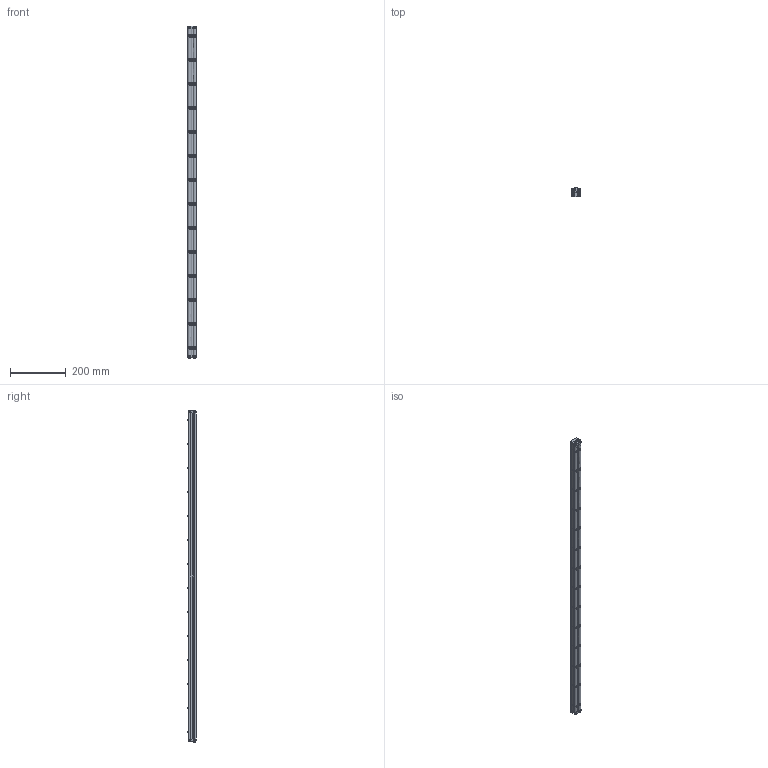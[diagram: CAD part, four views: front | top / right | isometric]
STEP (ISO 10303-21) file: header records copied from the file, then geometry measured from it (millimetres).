
FILE_DESCRIPTION((''),'2;1');
FILE_NAME('206523-46_ASM','2023-02-27T',('jenni.wallner'),(''),'PRO/ENGINEER BY PARAMETRIC TECHNOLOGY CORPORATION, 2012420','PRO/ENGINEER BY PARAMETRIC TECHNOLOGY CORPORATION, 2012420','');
FILE_SCHEMA(('CONFIG_CONTROL_DESIGN'));
Length unit declared in the file: inch
Products named in the file (7): 240826; 205977_205978_205979_205978; 9506XXM_950616M; 2436WW_243646; 2410WW_241046; ASM0001_ASM; 206523-46_ASM
Assembly tree (23 placements, depth 3):
  206523-46_ASM
    ASM0001_ASM
      240826  x14
      205977_205978_205979_205978  x2
      9506XXM_950616M  x4
      2436WW_243646
      2410WW_241046
Bounding box: 30.89 x 33.01 x 1188.95 mm (x, y, z)
Volume: 568171.1 mm3; surface area: 337130.9 mm2
Topology: 22 solids, 22 shells, 856 faces, 2434 edges, 1602 vertices
Faces by surface type: cylinder 390, plane 278, cone 132, torus 56
Entity records: 20307 total; most frequent: CARTESIAN_POINT 5044, ORIENTED_EDGE 3346, DIRECTION 3195, EDGE_CURVE 1673, AXIS2_PLACEMENT_3D 1209, VERTEX_POINT 1116, VECTOR 777, LINE 777
